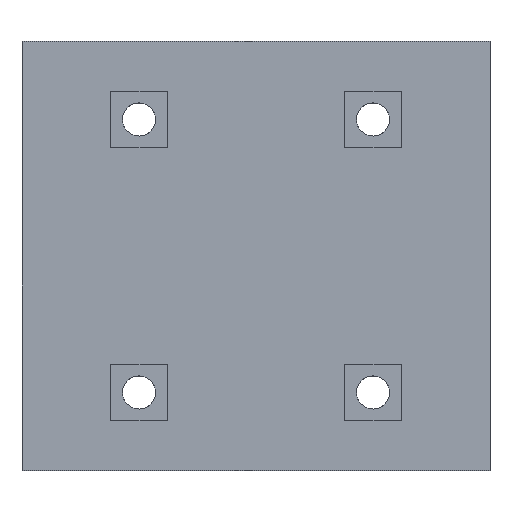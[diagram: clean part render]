
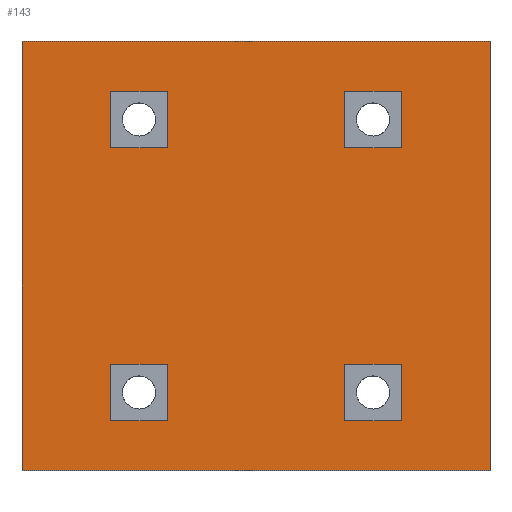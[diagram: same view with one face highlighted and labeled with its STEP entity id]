
A CAD part, top view. The second image highlights one B-rep face of the part: STEP entity #143.
In plain terms, the highlighted planar face has unit normal (0, 0, 1).
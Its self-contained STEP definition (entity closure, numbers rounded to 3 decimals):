
#11=DIRECTION('',(0.0,0.0,1.0));
#12=DIRECTION('',(1.0,0.0,0.0));
#20=DIRECTION('',(-1.0,0.0,0.0));
#21=CARTESIAN_POINT('',(130.667,84.0,12.));
#22=AXIS2_PLACEMENT_3D('',#21,#11,#20);
#23=PLANE('',#22);
#24=DIRECTION('',(0.0,1.0,0.0));
#25=VECTOR('',#24,5.8);
#26=CARTESIAN_POINT('',(97.567,73.1,12.));
#27=LINE('',#26,#25);
#28=CARTESIAN_POINT('',(97.567,78.9,12.));
#29=VERTEX_POINT('',#28);
#30=VERTEX_POINT('',#26);
#31=EDGE_CURVE('',#30,#29,#27,.T.);
#32=ORIENTED_EDGE('',*,*,#31,.F.);
#33=VECTOR('',#20,5.8);
#34=LINE('',#28,#33);
#35=CARTESIAN_POINT('',(91.767,78.9,12.));
#36=VERTEX_POINT('',#35);
#37=EDGE_CURVE('',#29,#36,#34,.T.);
#38=ORIENTED_EDGE('',*,*,#37,.F.);
#39=DIRECTION('',(0.0,-1.0,0.0));
#40=VECTOR('',#39,5.8);
#41=LINE('',#35,#40);
#42=CARTESIAN_POINT('',(91.767,73.1,12.));
#43=VERTEX_POINT('',#42);
#44=EDGE_CURVE('',#36,#43,#41,.T.);
#45=ORIENTED_EDGE('',*,*,#44,.F.);
#46=VECTOR('',#12,5.8);
#47=LINE('',#42,#46);
#48=EDGE_CURVE('',#43,#30,#47,.T.);
#49=ORIENTED_EDGE('',*,*,#48,.F.);
#50=EDGE_LOOP('',(#49,#45,#38,#32));
#51=FACE_BOUND('',#50,.T.);
#52=CARTESIAN_POINT('',(91.767,50.9,12.));
#53=LINE('',#52,#40);
#54=CARTESIAN_POINT('',(91.767,45.1,12.));
#55=VERTEX_POINT('',#54);
#56=VERTEX_POINT('',#52);
#57=EDGE_CURVE('',#56,#55,#53,.T.);
#58=ORIENTED_EDGE('',*,*,#57,.F.);
#59=LINE('',#54,#46);
#60=CARTESIAN_POINT('',(97.567,45.1,12.));
#61=VERTEX_POINT('',#60);
#62=EDGE_CURVE('',#55,#61,#59,.T.);
#63=ORIENTED_EDGE('',*,*,#62,.F.);
#64=LINE('',#60,#25);
#65=CARTESIAN_POINT('',(97.567,50.9,12.));
#66=VERTEX_POINT('',#65);
#67=EDGE_CURVE('',#61,#66,#64,.T.);
#68=ORIENTED_EDGE('',*,*,#67,.F.);
#69=LINE('',#65,#33);
#70=EDGE_CURVE('',#66,#56,#69,.T.);
#71=ORIENTED_EDGE('',*,*,#70,.F.);
#72=EDGE_LOOP('',(#71,#68,#63,#58));
#73=FACE_BOUND('',#72,.T.);
#74=CARTESIAN_POINT('',(121.567,73.1,12.));
#75=LINE('',#74,#25);
#76=CARTESIAN_POINT('',(121.567,78.9,12.));
#77=VERTEX_POINT('',#76);
#78=VERTEX_POINT('',#74);
#79=EDGE_CURVE('',#78,#77,#75,.T.);
#80=ORIENTED_EDGE('',*,*,#79,.F.);
#81=LINE('',#76,#33);
#82=CARTESIAN_POINT('',(115.767,78.9,12.));
#83=VERTEX_POINT('',#82);
#84=EDGE_CURVE('',#77,#83,#81,.T.);
#85=ORIENTED_EDGE('',*,*,#84,.F.);
#86=LINE('',#82,#40);
#87=CARTESIAN_POINT('',(115.767,73.1,12.));
#88=VERTEX_POINT('',#87);
#89=EDGE_CURVE('',#83,#88,#86,.T.);
#90=ORIENTED_EDGE('',*,*,#89,.F.);
#91=LINE('',#87,#46);
#92=EDGE_CURVE('',#88,#78,#91,.T.);
#93=ORIENTED_EDGE('',*,*,#92,.F.);
#94=EDGE_LOOP('',(#93,#90,#85,#80));
#95=FACE_BOUND('',#94,.T.);
#96=CARTESIAN_POINT('',(115.767,50.9,12.));
#97=LINE('',#96,#40);
#98=CARTESIAN_POINT('',(115.767,45.1,12.));
#99=VERTEX_POINT('',#98);
#100=VERTEX_POINT('',#96);
#101=EDGE_CURVE('',#100,#99,#97,.T.);
#102=ORIENTED_EDGE('',*,*,#101,.F.);
#103=LINE('',#98,#46);
#104=CARTESIAN_POINT('',(121.567,45.1,12.));
#105=VERTEX_POINT('',#104);
#106=EDGE_CURVE('',#99,#105,#103,.T.);
#107=ORIENTED_EDGE('',*,*,#106,.F.);
#108=LINE('',#104,#25);
#109=CARTESIAN_POINT('',(121.567,50.9,12.));
#110=VERTEX_POINT('',#109);
#111=EDGE_CURVE('',#105,#110,#108,.T.);
#112=ORIENTED_EDGE('',*,*,#111,.F.);
#113=LINE('',#109,#33);
#114=EDGE_CURVE('',#110,#100,#113,.T.);
#115=ORIENTED_EDGE('',*,*,#114,.F.);
#116=EDGE_LOOP('',(#115,#112,#107,#102));
#117=FACE_BOUND('',#116,.T.);
#118=VECTOR('',#24,44.0);
#119=CARTESIAN_POINT('',(82.667,40.0,12.));
#120=LINE('',#119,#118);
#121=CARTESIAN_POINT('',(82.667,84.0,12.));
#122=VERTEX_POINT('',#121);
#123=VERTEX_POINT('',#119);
#124=EDGE_CURVE('',#123,#122,#120,.T.);
#125=ORIENTED_EDGE('',*,*,#124,.F.);
#126=VECTOR('',#12,48.);
#127=LINE('',#121,#126);
#128=VERTEX_POINT('',#21);
#129=EDGE_CURVE('',#122,#128,#127,.T.);
#130=ORIENTED_EDGE('',*,*,#129,.F.);
#131=VECTOR('',#39,44.0);
#132=LINE('',#21,#131);
#133=CARTESIAN_POINT('',(130.667,40.0,12.));
#134=VERTEX_POINT('',#133);
#135=EDGE_CURVE('',#128,#134,#132,.T.);
#136=ORIENTED_EDGE('',*,*,#135,.F.);
#137=VECTOR('',#20,48.);
#138=LINE('',#133,#137);
#139=EDGE_CURVE('',#134,#123,#138,.T.);
#140=ORIENTED_EDGE('',*,*,#139,.F.);
#141=EDGE_LOOP('',(#140,#136,#130,#125));
#142=FACE_BOUND('',#141,.T.);
#143=ADVANCED_FACE('',(#142,#117,#95,#73,#51),#23,.T.);
